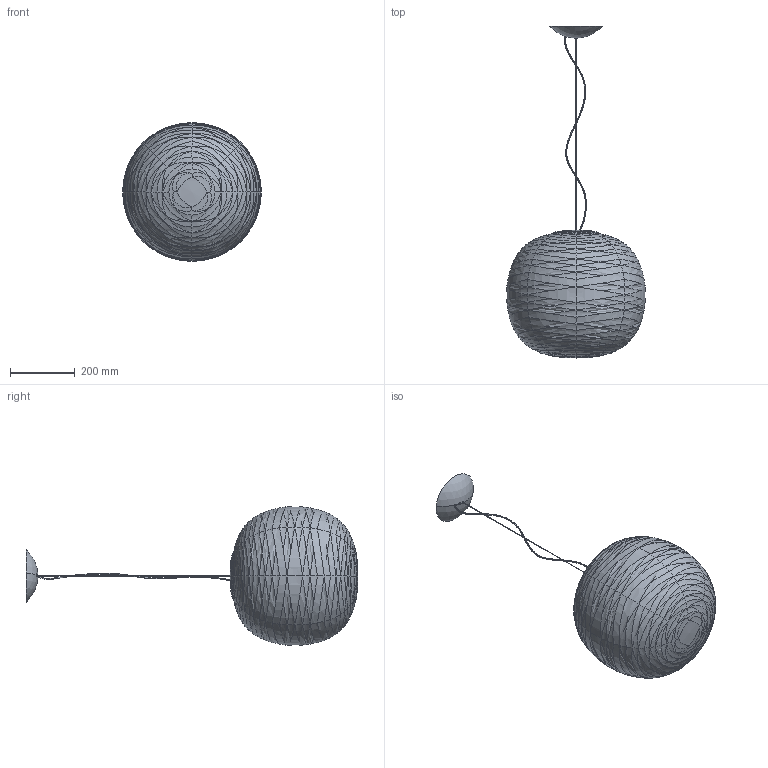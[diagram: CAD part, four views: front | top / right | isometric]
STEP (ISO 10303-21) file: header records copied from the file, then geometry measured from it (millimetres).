
FILE_DESCRIPTION (( 'STEP AP214' ), '1' );
FILE_NAME ('274_STD_S_ME_3D.STEP', '2021-05-20T07:16:18', ( '' ), ( '' ), 'SwSTEP 2.0', 'SolidWorks 2021', '' );
FILE_SCHEMA (( 'AUTOMOTIVE_DESIGN' ));
Length unit declared in the file: millimetre
Products named in the file (1): 274_STD_S_ME_3D
Bounding box: 427.95 x 1024.97 x 427.95 mm (x, y, z)
Volume: 3188363 mm3; surface area: 1252637.8 mm2
Topology: 4 solids, 4 shells, 2291 faces, 5479 edges, 2924 vertices
Faces by surface type: bspline 1289, cylinder 281, plane 269, torus 223, cone 131, sphere 98
Entity records: 171916 total; most frequent: CARTESIAN_POINT 105658, ORIENTED_EDGE 10292, DIRECTION 5985, EDGE_CURVE 5146, VERTEX_POINT 2898, AXIS2_PLACEMENT_3D 2643, B_SPLINE_CURVE_WITH_KNOTS 2641, EDGE_LOOP 2324
